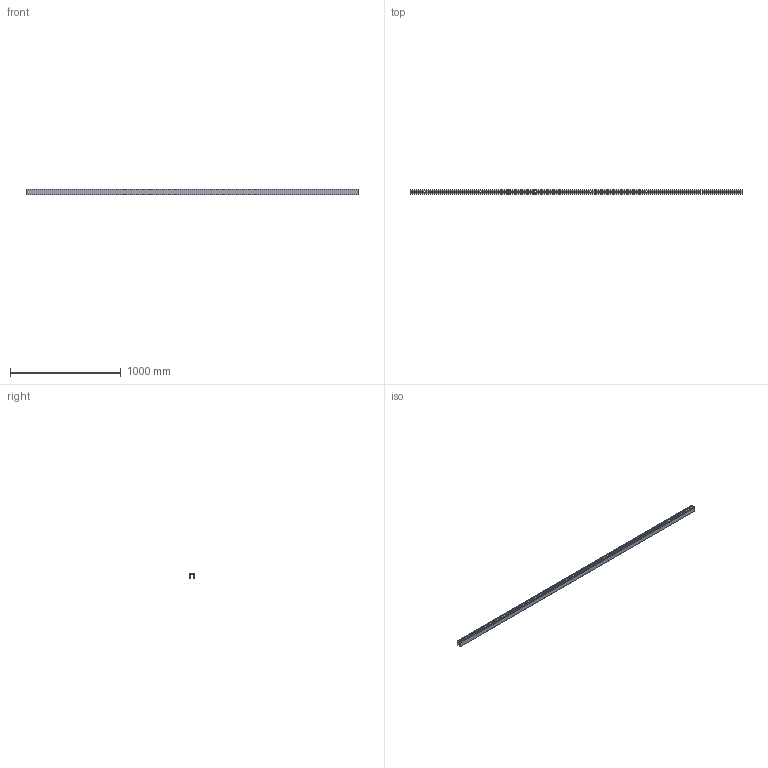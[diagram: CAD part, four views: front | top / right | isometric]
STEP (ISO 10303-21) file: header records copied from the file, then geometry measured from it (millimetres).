
FILE_DESCRIPTION(('STEP AP242'),'1');
FILE_NAME('OPO_65.081.82_volu_schn_3d.stp','2026-01-30T20:51:59',(' '),(' '),'Spatial InterOp 3D',' ',' ');
FILE_SCHEMA(('AP242_MANAGED_MODEL_BASED_3D_ENGINEERING_MIM_LF {1 0 10303 442 1 1 4}'));
Length unit declared in the file: millimetre
Products named in the file (1): 1
Bounding box: 3000 x 38 x 46.5 mm (x, y, z)
Volume: 936168 mm3; surface area: 844036 mm2
Topology: 1 solids, 1 shells, 82 faces, 413 edges, 500 vertices
Faces by surface type: plane 62, cylinder 20
Entity records: 5483 total; most frequent: CARTESIAN_POINT 659, DIRECTION 641, ORIENTED_EDGE 488, LINE 353, VECTOR 353, STYLED_ITEM 251, PRESENTATION_STYLE_ASSIGNMENT 251, COLOUR_RGB 251
